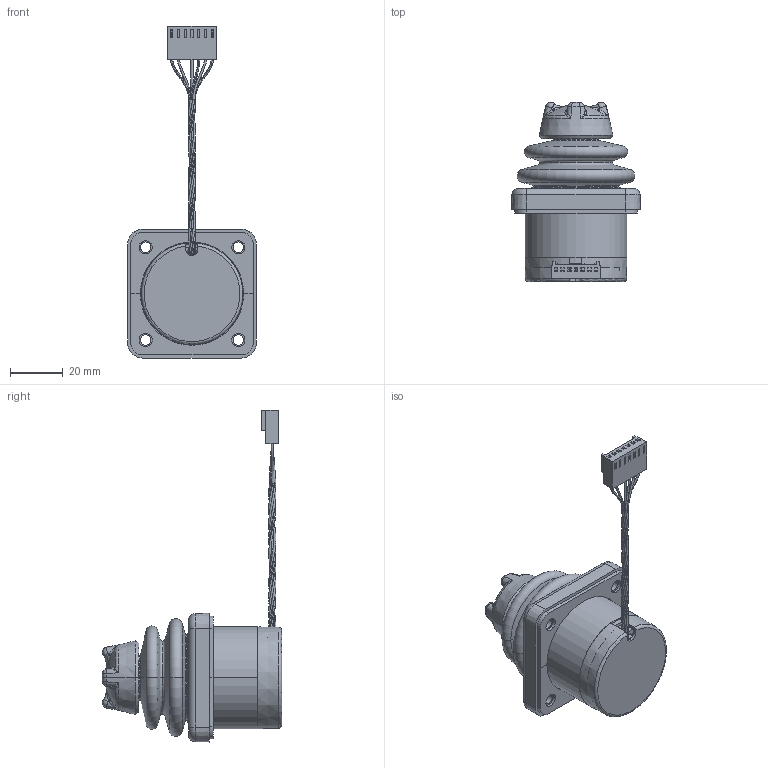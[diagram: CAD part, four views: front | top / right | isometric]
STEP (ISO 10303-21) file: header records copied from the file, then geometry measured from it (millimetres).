
FILE_DESCRIPTION(('FreeCAD Model'),'2;1');
FILE_NAME('Open CASCADE Shape Model','2025-11-17T13:08:48',(''),(''), 'Open CASCADE STEP processor 7.6','FreeCAD','Unknown');
FILE_SCHEMA(('AUTOMOTIVE_DESIGN { 1 0 10303 214 1 1 1 1 }'));
Length unit declared in the file: millimetre
Products named in the file (9): 848 Handle A; joystick_base; rubber_boot; square bezel 135890; end_cap; handle A; cable harness; wires; AM254-07H (Standard 848/844)
Assembly tree (8 placements, depth 3):
  848 Handle A
    joystick_base
    rubber_boot
    square bezel 135890
    end_cap
    handle A
    cable harness
      wires
      AM254-07H (Standard 848/844)
Bounding box: 48.6 x 67.62 x 125.33 mm (x, y, z)
Volume: 25234.7 mm3; surface area: 40116.9 mm2
Topology: 18 solids, 18 shells, 928 faces, 3485 edges, 5888 vertices
Faces by surface type: plane 382, cylinder 175, bspline 150, cone 89, torus 80, sphere 34, revolution 18
Entity records: 55715 total; most frequent: CARTESIAN_POINT 23714, DIRECTION 5972, ORIENTED_EDGE 4730, EDGE_CURVE 2365, AXIS2_PLACEMENT_3D 2206, LINE 1542, VECTOR 1542, VERTEX_POINT 1504
